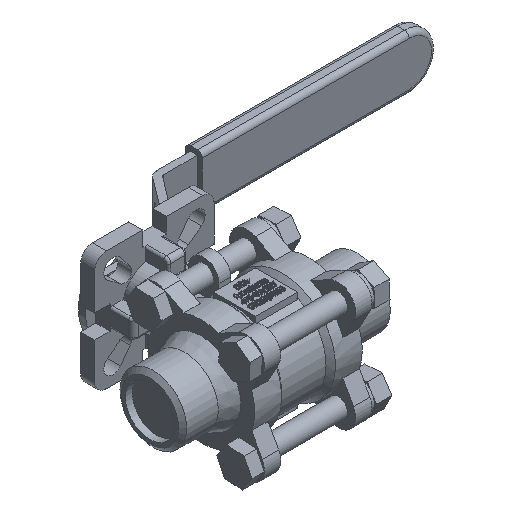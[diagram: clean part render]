
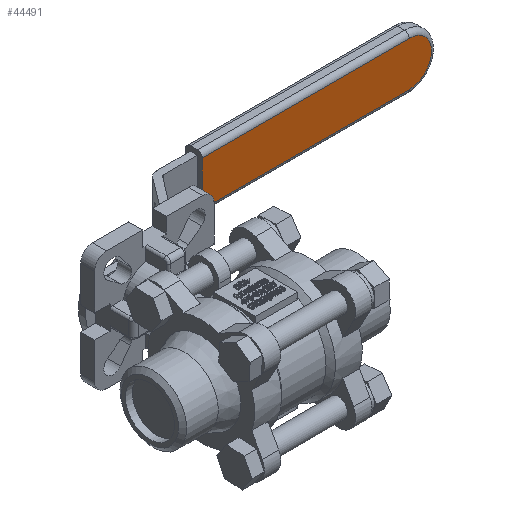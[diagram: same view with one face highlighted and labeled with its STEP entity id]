
A CAD part, isometric view. The second image highlights one B-rep face of the part: STEP entity #44491.
In plain terms, the highlighted planar face has unit normal (0, -1, 0).
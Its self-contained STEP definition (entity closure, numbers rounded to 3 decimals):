
#44374=CARTESIAN_POINT('',(50.335,73.,9.5));
#44375=VERTEX_POINT('',#44374);
#44383=CARTESIAN_POINT('',(138.835,73.,9.5));
#44384=VERTEX_POINT('',#44383);
#44385=CARTESIAN_POINT('',(50.335,73.,9.5));
#44386=DIRECTION('',(1.0,0.0,0.0));
#44387=VECTOR('',#44386,88.5);
#44388=LINE('',#44385,#44387);
#44389=EDGE_CURVE('',#44375,#44384,#44388,.T.);
#44414=CARTESIAN_POINT('',(138.835,73.,-9.5));
#44415=VERTEX_POINT('',#44414);
#44433=CARTESIAN_POINT('',(138.835,73.,0.));
#44434=DIRECTION('',(0.0,1.0,0.0));
#44435=DIRECTION('',(1.0,0.0,0.0));
#44436=AXIS2_PLACEMENT_3D('',#44433,#44434,#44435);
#44437=CIRCLE('',#44436,9.5);
#44438=EDGE_CURVE('',#44384,#44415,#44437,.T.);
#44448=CARTESIAN_POINT('',(50.335,73.,-9.5));
#44449=VERTEX_POINT('',#44448);
#44466=CARTESIAN_POINT('',(138.835,73.,-9.5));
#44467=DIRECTION('',(-1.0,0.0,0.0));
#44468=VECTOR('',#44467,88.5);
#44469=LINE('',#44466,#44468);
#44470=EDGE_CURVE('',#44415,#44449,#44469,.T.);
#44475=CARTESIAN_POINT('',(50.335,73.,-11.5));
#44476=DIRECTION('',(0.0,-1.0,0.0));
#44477=DIRECTION('',(0.0,0.0,-1.0));
#44478=AXIS2_PLACEMENT_3D('',#44475,#44476,#44477);
#44479=PLANE('',#44478);
#44480=ORIENTED_EDGE('',*,*,#44470,.F.);
#44481=ORIENTED_EDGE('',*,*,#44438,.F.);
#44482=ORIENTED_EDGE('',*,*,#44389,.F.);
#44483=CARTESIAN_POINT('',(50.335,73.,-9.5));
#44484=DIRECTION('',(0.0,0.0,1.0));
#44485=VECTOR('',#44484,19.0);
#44486=LINE('',#44483,#44485);
#44487=EDGE_CURVE('',#44449,#44375,#44486,.T.);
#44488=ORIENTED_EDGE('',*,*,#44487,.F.);
#44489=EDGE_LOOP('',(#44480,#44481,#44482,#44488));
#44490=FACE_OUTER_BOUND('',#44489,.T.);
#44491=ADVANCED_FACE('',(#44490),#44479,.T.);
